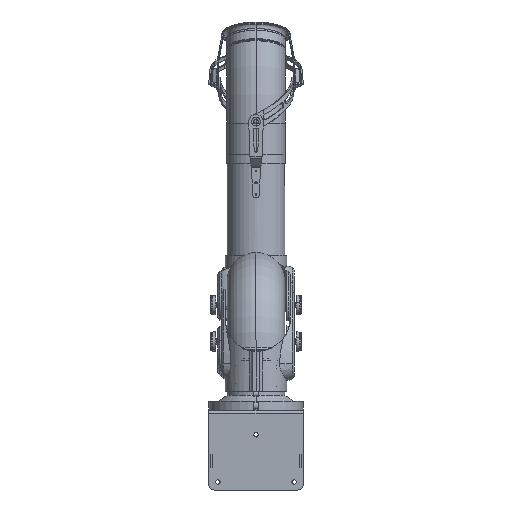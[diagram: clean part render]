
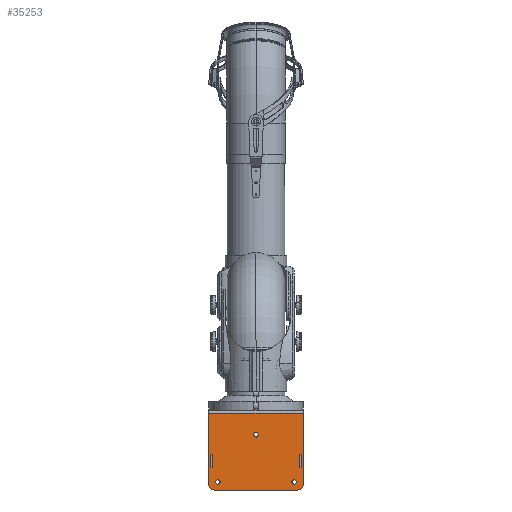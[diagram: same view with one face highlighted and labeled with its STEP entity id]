
A CAD part, front view. The second image highlights one B-rep face of the part: STEP entity #35253.
In plain terms, the highlighted planar face has unit normal (0, -1, 0).
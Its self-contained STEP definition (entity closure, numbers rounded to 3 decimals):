
#34394=CARTESIAN_POINT('',(-105.,0.,-198.));
#34395=DIRECTION('',(0.,1.,0.));
#34396=DIRECTION('',(-1.,0.,0.));
#34397=AXIS2_PLACEMENT_3D('',#34394,#34395,#34396);
#34399=CARTESIAN_POINT('',(-105.,0.,-198.));
#34400=DIRECTION('',(0.,1.,0.));
#34401=DIRECTION('',(1.,0.,0.));
#34402=AXIS2_PLACEMENT_3D('',#34399,#34400,#34401);
#34404=CARTESIAN_POINT('',(105.,0.,-198.));
#34405=DIRECTION('',(0.,1.,0.));
#34406=DIRECTION('',(-1.,0.,0.));
#34407=AXIS2_PLACEMENT_3D('',#34404,#34405,#34406);
#34409=CARTESIAN_POINT('',(105.,0.,-198.));
#34410=DIRECTION('',(0.,1.,0.));
#34411=DIRECTION('',(1.,0.,0.));
#34412=AXIS2_PLACEMENT_3D('',#34409,#34410,#34411);
#34414=CARTESIAN_POINT('',(0.,0.,-68.));
#34415=DIRECTION('',(0.,1.,0.));
#34416=DIRECTION('',(-1.,0.,0.));
#34417=AXIS2_PLACEMENT_3D('',#34414,#34415,#34416);
#34419=CARTESIAN_POINT('',(0.,0.,-68.));
#34420=DIRECTION('',(0.,1.,0.));
#34421=DIRECTION('',(1.,0.,0.));
#34422=AXIS2_PLACEMENT_3D('',#34419,#34420,#34421);
#34424=CARTESIAN_POINT('',(115.,0.,-205.));
#34425=DIRECTION('',(0.,-1.,0.));
#34426=DIRECTION('',(0.,0.,-1.));
#34427=AXIS2_PLACEMENT_3D('',#34424,#34425,#34426);
#34429=CARTESIAN_POINT('',(-115.,0.,-205.));
#34430=DIRECTION('',(0.,-1.,0.));
#34431=DIRECTION('',(-1.,0.,0.));
#34432=AXIS2_PLACEMENT_3D('',#34429,#34430,#34431);
#34434=DIRECTION('',(0.,0.,-1.));
#34435=VECTOR('',#34434,197.);
#34436=CARTESIAN_POINT('',(-130.,0.,-8.));
#34437=LINE('',#34436,#34435);
#34438=DIRECTION('',(0.,0.,-1.));
#34439=VECTOR('',#34438,197.);
#34440=CARTESIAN_POINT('',(130.,0.,-8.));
#34441=LINE('',#34440,#34439);
#34442=DIRECTION('',(-1.,0.,0.));
#34443=VECTOR('',#34442,4.2);
#34444=CARTESIAN_POINT('',(125.1,0.,-154.));
#34445=LINE('',#34444,#34443);
#34446=DIRECTION('',(0.,0.,-1.));
#34447=VECTOR('',#34446,28.);
#34448=CARTESIAN_POINT('',(125.1,0.,-126.));
#34449=LINE('',#34448,#34447);
#34450=DIRECTION('',(1.,0.,0.));
#34451=VECTOR('',#34450,4.2);
#34452=CARTESIAN_POINT('',(120.9,0.,-126.));
#34453=LINE('',#34452,#34451);
#34454=DIRECTION('',(0.,0.,1.));
#34455=VECTOR('',#34454,28.);
#34456=CARTESIAN_POINT('',(120.9,0.,-154.));
#34457=LINE('',#34456,#34455);
#34458=DIRECTION('',(1.,0.,0.));
#34459=VECTOR('',#34458,4.2);
#34460=CARTESIAN_POINT('',(-125.1,0.,-154.));
#34461=LINE('',#34460,#34459);
#34462=DIRECTION('',(0.,0.,1.));
#34463=VECTOR('',#34462,28.);
#34464=CARTESIAN_POINT('',(-120.9,0.,-154.));
#34465=LINE('',#34464,#34463);
#34466=DIRECTION('',(-1.,0.,0.));
#34467=VECTOR('',#34466,4.2);
#34468=CARTESIAN_POINT('',(-120.9,0.,-126.));
#34469=LINE('',#34468,#34467);
#34470=DIRECTION('',(0.,0.,-1.));
#34471=VECTOR('',#34470,28.);
#34472=CARTESIAN_POINT('',(-125.1,0.,-126.));
#34473=LINE('',#34472,#34471);
#34604=DIRECTION('',(1.,0.,0.));
#34605=VECTOR('',#34604,260.);
#34606=CARTESIAN_POINT('',(-130.,0.,-8.));
#34607=LINE('',#34606,#34605);
#34628=DIRECTION('',(1.,0.,0.));
#34629=VECTOR('',#34628,230.);
#34630=CARTESIAN_POINT('',(-115.,0.,-220.));
#34631=LINE('',#34630,#34629);
#35028=CARTESIAN_POINT('',(-130.,0.,-8.));
#35029=VERTEX_POINT('',#35028);
#35030=CARTESIAN_POINT('',(130.,0.,-8.));
#35031=VERTEX_POINT('',#35030);
#35044=CARTESIAN_POINT('',(-111.,0.,-198.));
#35045=CARTESIAN_POINT('',(-99.,0.,-198.));
#35046=VERTEX_POINT('',#35044);
#35047=VERTEX_POINT('',#35045);
#35048=CARTESIAN_POINT('',(99.,0.,-198.));
#35049=CARTESIAN_POINT('',(111.,0.,-198.));
#35050=VERTEX_POINT('',#35048);
#35051=VERTEX_POINT('',#35049);
#35052=CARTESIAN_POINT('',(-6.,0.,-68.));
#35053=CARTESIAN_POINT('',(6.,0.,-68.));
#35054=VERTEX_POINT('',#35052);
#35055=VERTEX_POINT('',#35053);
#35116=CARTESIAN_POINT('',(115.,0.,-220.));
#35117=CARTESIAN_POINT('',(130.,0.,-205.));
#35118=VERTEX_POINT('',#35116);
#35119=VERTEX_POINT('',#35117);
#35124=CARTESIAN_POINT('',(-130.,0.,-205.));
#35125=CARTESIAN_POINT('',(-115.,0.,-220.));
#35126=VERTEX_POINT('',#35124);
#35127=VERTEX_POINT('',#35125);
#35132=CARTESIAN_POINT('',(125.1,0.,-154.));
#35133=CARTESIAN_POINT('',(120.9,0.,-154.));
#35134=VERTEX_POINT('',#35132);
#35135=VERTEX_POINT('',#35133);
#35136=CARTESIAN_POINT('',(120.9,0.,-126.));
#35137=VERTEX_POINT('',#35136);
#35138=CARTESIAN_POINT('',(125.1,0.,-126.));
#35139=VERTEX_POINT('',#35138);
#35148=CARTESIAN_POINT('',(-125.1,0.,-154.));
#35149=CARTESIAN_POINT('',(-120.9,0.,-154.));
#35150=VERTEX_POINT('',#35148);
#35151=VERTEX_POINT('',#35149);
#35152=CARTESIAN_POINT('',(-120.9,0.,-126.));
#35153=VERTEX_POINT('',#35152);
#35154=CARTESIAN_POINT('',(-125.1,0.,-126.));
#35155=VERTEX_POINT('',#35154);
#35196=CARTESIAN_POINT('',(-175.,0.,0.));
#35197=DIRECTION('',(0.,-1.,0.));
#35198=DIRECTION('',(0.,0.,-1.));
#35199=AXIS2_PLACEMENT_3D('',#35196,#35197,#35198);
#35200=PLANE('',#35199);
#35202=ORIENTED_EDGE('',*,*,#35201,.F.);
#35204=ORIENTED_EDGE('',*,*,#35203,.F.);
#35206=ORIENTED_EDGE('',*,*,#35205,.F.);
#35208=ORIENTED_EDGE('',*,*,#35207,.F.);
#35210=ORIENTED_EDGE('',*,*,#35209,.T.);
#35212=ORIENTED_EDGE('',*,*,#35211,.T.);
#35213=EDGE_LOOP('',(#35202,#35204,#35206,#35208,#35210,#35212));
#35214=FACE_OUTER_BOUND('',#35213,.F.);
#35216=ORIENTED_EDGE('',*,*,#35215,.F.);
#35218=ORIENTED_EDGE('',*,*,#35217,.F.);
#35219=EDGE_LOOP('',(#35216,#35218));
#35220=FACE_BOUND('',#35219,.F.);
#35222=ORIENTED_EDGE('',*,*,#35221,.F.);
#35224=ORIENTED_EDGE('',*,*,#35223,.F.);
#35225=EDGE_LOOP('',(#35222,#35224));
#35226=FACE_BOUND('',#35225,.F.);
#35228=ORIENTED_EDGE('',*,*,#35227,.F.);
#35230=ORIENTED_EDGE('',*,*,#35229,.F.);
#35231=EDGE_LOOP('',(#35228,#35230));
#35232=FACE_BOUND('',#35231,.F.);
#35234=ORIENTED_EDGE('',*,*,#35233,.F.);
#35236=ORIENTED_EDGE('',*,*,#35235,.F.);
#35238=ORIENTED_EDGE('',*,*,#35237,.F.);
#35240=ORIENTED_EDGE('',*,*,#35239,.F.);
#35241=EDGE_LOOP('',(#35234,#35236,#35238,#35240));
#35242=FACE_BOUND('',#35241,.F.);
#35244=ORIENTED_EDGE('',*,*,#35243,.T.);
#35246=ORIENTED_EDGE('',*,*,#35245,.T.);
#35248=ORIENTED_EDGE('',*,*,#35247,.T.);
#35250=ORIENTED_EDGE('',*,*,#35249,.T.);
#35251=EDGE_LOOP('',(#35244,#35246,#35248,#35250));
#35252=FACE_BOUND('',#35251,.F.);
#34398=CIRCLE('',#34397,6.);
#34403=CIRCLE('',#34402,6.);
#34408=CIRCLE('',#34407,6.);
#34413=CIRCLE('',#34412,6.);
#34418=CIRCLE('',#34417,6.);
#34423=CIRCLE('',#34422,6.);
#34428=CIRCLE('',#34427,15.);
#34433=CIRCLE('',#34432,15.);
#35201=EDGE_CURVE('',#35118,#35119,#34428,.T.);
#35203=EDGE_CURVE('',#35127,#35118,#34631,.T.);
#35205=EDGE_CURVE('',#35126,#35127,#34433,.T.);
#35207=EDGE_CURVE('',#35029,#35126,#34437,.T.);
#35209=EDGE_CURVE('',#35029,#35031,#34607,.T.);
#35211=EDGE_CURVE('',#35031,#35119,#34441,.T.);
#35215=EDGE_CURVE('',#35050,#35051,#34408,.T.);
#35217=EDGE_CURVE('',#35051,#35050,#34413,.T.);
#35221=EDGE_CURVE('',#35054,#35055,#34418,.T.);
#35223=EDGE_CURVE('',#35055,#35054,#34423,.T.);
#35227=EDGE_CURVE('',#35046,#35047,#34398,.T.);
#35229=EDGE_CURVE('',#35047,#35046,#34403,.T.);
#35233=EDGE_CURVE('',#35134,#35135,#34445,.T.);
#35235=EDGE_CURVE('',#35139,#35134,#34449,.T.);
#35237=EDGE_CURVE('',#35137,#35139,#34453,.T.);
#35239=EDGE_CURVE('',#35135,#35137,#34457,.T.);
#35243=EDGE_CURVE('',#35150,#35151,#34461,.T.);
#35245=EDGE_CURVE('',#35151,#35153,#34465,.T.);
#35247=EDGE_CURVE('',#35153,#35155,#34469,.T.);
#35249=EDGE_CURVE('',#35155,#35150,#34473,.T.);
#35253=ADVANCED_FACE('',(#35214,#35220,#35226,#35232,#35242,#35252),#35200,.T.);
